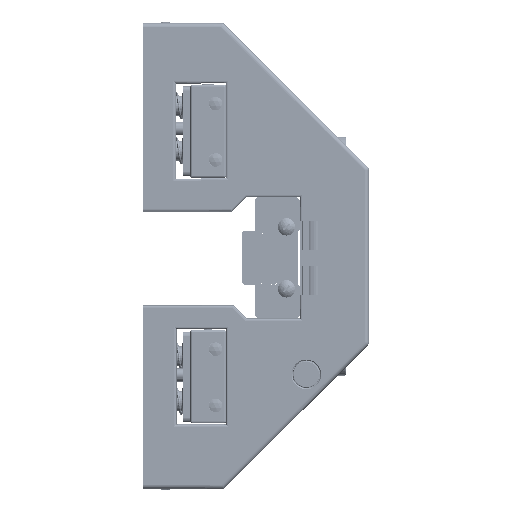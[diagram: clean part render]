
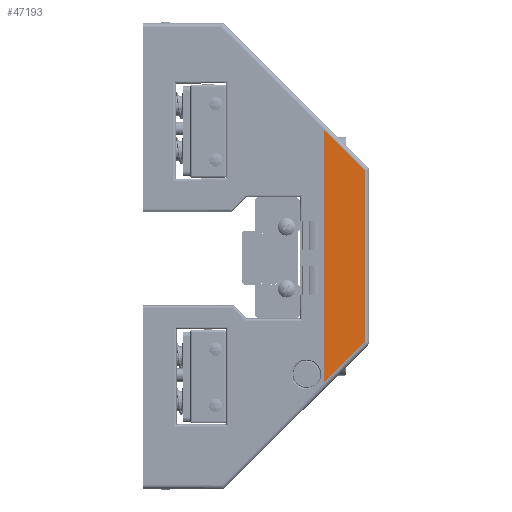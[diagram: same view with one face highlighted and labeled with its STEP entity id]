
A CAD part, left-side view. The second image highlights one B-rep face of the part: STEP entity #47193.
In plain terms, the highlighted planar face has unit normal (-1, 0, 0).
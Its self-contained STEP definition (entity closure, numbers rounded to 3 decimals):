
#2582=PLANE('',#52009);
#5533=FACE_OUTER_BOUND('',#8404,.T.);
#8404=EDGE_LOOP('',(#41703,#41704,#41705,#41706));
#14505=LINE('',#253069,#17895);
#14530=LINE('',#253142,#17920);
#14531=LINE('',#253145,#17921);
#14532=LINE('',#253146,#17922);
#17895=VECTOR('',#62688,10.);
#17920=VECTOR('',#62753,10.);
#17921=VECTOR('',#62756,10.);
#17922=VECTOR('',#62757,10.);
#22369=VERTEX_POINT('',#253060);
#22372=VERTEX_POINT('',#253067);
#22400=VERTEX_POINT('',#253140);
#22401=VERTEX_POINT('',#253144);
#28921=EDGE_CURVE('',#22372,#22369,#14505,.T.);
#28958=EDGE_CURVE('',#22400,#22372,#14530,.T.);
#28959=EDGE_CURVE('',#22401,#22400,#14531,.F.);
#28960=EDGE_CURVE('',#22369,#22401,#14532,.T.);
#41703=ORIENTED_EDGE('',*,*,#28921,.F.);
#41704=ORIENTED_EDGE('',*,*,#28958,.F.);
#41705=ORIENTED_EDGE('',*,*,#28959,.F.);
#41706=ORIENTED_EDGE('',*,*,#28960,.F.);
#47193=ADVANCED_FACE('',(#5533),#2582,.T.);
#52009=AXIS2_PLACEMENT_3D('',#253143,#62754,#62755);
#62688=DIRECTION('',(0.,0.,-1.));
#62753=DIRECTION('',(0.,-0.708,-0.706));
#62754=DIRECTION('center_axis',(-1.,0.,0.));
#62755=DIRECTION('ref_axis',(0.,0.,-1.));
#62756=DIRECTION('',(0.,0.,-1.));
#62757=DIRECTION('',(0.,0.709,-0.706));
#253060=CARTESIAN_POINT('',(-161.926,-217.876,30.757));
#253067=CARTESIAN_POINT('',(-161.926,-217.876,69.088));
#253069=CARTESIAN_POINT('',(-161.926,-217.876,64.728));
#253140=CARTESIAN_POINT('',(-161.926,-208.876,78.064));
#253142=CARTESIAN_POINT('',(-161.926,-208.174,78.764));
#253143=CARTESIAN_POINT('Origin',(-161.926,-208.876,79.459));
#253144=CARTESIAN_POINT('',(-161.926,-208.876,21.795));
#253145=CARTESIAN_POINT('',(-161.926,-208.876,64.728));
#253146=CARTESIAN_POINT('',(-161.926,-227.974,40.813));
